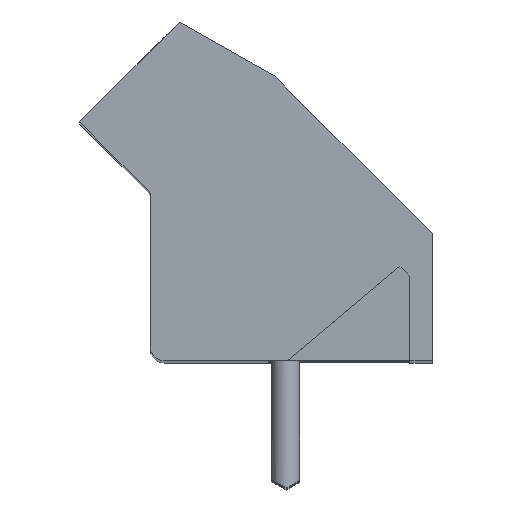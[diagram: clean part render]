
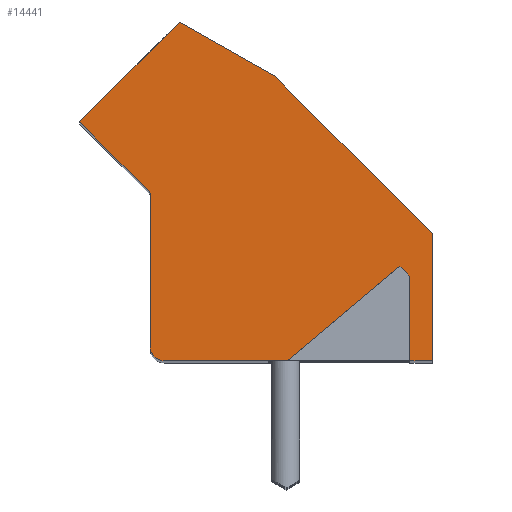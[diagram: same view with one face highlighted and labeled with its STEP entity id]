
A CAD part, top view. The second image highlights one B-rep face of the part: STEP entity #14441.
In plain terms, the highlighted planar face has unit normal (0, 0, 1).
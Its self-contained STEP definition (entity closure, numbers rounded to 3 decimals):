
#32 = CARTESIAN_POINT ( 'NONE',  ( -0.8, 0., 45. ) ) ;
#159 = ORIENTED_EDGE ( 'NONE', *, *, #15555, .T. ) ;
#381 = CARTESIAN_POINT ( 'NONE',  ( -10., 0., 45. ) ) ;
#671 = LINE ( 'NONE', #18252, #11833 ) ;
#687 = CARTESIAN_POINT ( 'NONE',  ( -0.8, 0., 45. ) ) ;
#891 = VERTEX_POINT ( 'NONE', #4366 ) ;
#959 = DIRECTION ( 'NONE',  ( 0., 1., 0. ) ) ;
#1278 = VECTOR ( 'NONE', #959, 1000. ) ;
#1343 = CARTESIAN_POINT ( 'NONE',  ( -9.5, 0., 45. ) ) ;
#1352 = CARTESIAN_POINT ( 'NONE',  ( -8.964, 12., 45. ) ) ;
#1724 = DIRECTION ( 'NONE',  ( -0.707, -0.707, 0. ) ) ;
#1729 = DIRECTION ( 'NONE',  ( -0.707, 0.707, 0. ) ) ;
#1768 = EDGE_CURVE ( 'NONE', #10085, #5401, #15203, .T. ) ;
#2080 = VECTOR ( 'NONE', #6146, 1000. ) ;
#2171 = VECTOR ( 'NONE', #4014, 1000. ) ;
#2333 = AXIS2_PLACEMENT_3D ( 'NONE', #18033, #15600, #15533 ) ;
#2446 = CARTESIAN_POINT ( 'NONE',  ( -9.5, 0.5, 45. ) ) ;
#3111 = CARTESIAN_POINT ( 'NONE',  ( 0., 0., 45. ) ) ;
#3120 = VECTOR ( 'NONE', #13971, 1000. ) ;
#3169 = VERTEX_POINT ( 'NONE', #3111 ) ;
#3478 = VECTOR ( 'NONE', #18381, 1000. ) ;
#3642 = ORIENTED_EDGE ( 'NONE', *, *, #10011, .T. ) ;
#4014 = DIRECTION ( 'NONE',  ( -0.766, -0.643, 0. ) ) ;
#4016 = CARTESIAN_POINT ( 'NONE',  ( -10., 0., 45. ) ) ;
#4070 = CARTESIAN_POINT ( 'NONE',  ( -7.993, -2.392, 45. ) ) ;
#4366 = CARTESIAN_POINT ( 'NONE',  ( -5.142, 0., 45. ) ) ;
#4594 = VERTEX_POINT ( 'NONE', #12006 ) ;
#4657 = CARTESIAN_POINT ( 'NONE',  ( -1.15, 3.35, 45. ) ) ;
#4749 = DIRECTION ( 'NONE',  ( 1., 0., 0. ) ) ;
#5137 = ORIENTED_EDGE ( 'NONE', *, *, #15507, .F. ) ;
#5150 = VERTEX_POINT ( 'NONE', #10930 ) ;
#5238 = EDGE_CURVE ( 'NONE', #3169, #6045, #7754, .T. ) ;
#5401 = VERTEX_POINT ( 'NONE', #1343 ) ;
#5757 = ORIENTED_EDGE ( 'NONE', *, *, #7857, .T. ) ;
#5827 = LINE ( 'NONE', #1352, #13080 ) ;
#5864 = DIRECTION ( 'NONE',  ( -0.87, 0.493, 0. ) ) ;
#6014 = LINE ( 'NONE', #13595, #2080 ) ;
#6045 = VERTEX_POINT ( 'NONE', #8770 ) ;
#6073 = DIRECTION ( 'NONE',  ( 0., -1., 0. ) ) ;
#6146 = DIRECTION ( 'NONE',  ( 0.707, -0.707, 0. ) ) ;
#6248 = ORIENTED_EDGE ( 'NONE', *, *, #10845, .T. ) ;
#6539 = CARTESIAN_POINT ( 'NONE',  ( -10.029, 5.994, 45. ) ) ;
#6805 = CARTESIAN_POINT ( 'NONE',  ( -0.8, 3., 45. ) ) ;
#6942 = EDGE_LOOP ( 'NONE', ( #15700, #10306, #12633, #14600, #15589, #8802, #5137, #19339, #3642, #13482, #159, #5757, #6248 ) ) ;
#7371 = EDGE_CURVE ( 'NONE', #11358, #891, #9820, .T. ) ;
#7396 = LINE ( 'NONE', #12213, #3478 ) ;
#7694 = VERTEX_POINT ( 'NONE', #6539 ) ;
#7754 = LINE ( 'NONE', #9844, #1278 ) ;
#7857 = EDGE_CURVE ( 'NONE', #4594, #9708, #5827, .T. ) ;
#8114 = VECTOR ( 'NONE', #13086, 1000. ) ;
#8316 = LINE ( 'NONE', #13698, #10943 ) ;
#8770 = CARTESIAN_POINT ( 'NONE',  ( 0., 4.5, 45. ) ) ;
#8802 = ORIENTED_EDGE ( 'NONE', *, *, #7371, .F. ) ;
#8921 = EDGE_CURVE ( 'NONE', #5401, #891, #18251, .T. ) ;
#9708 = VERTEX_POINT ( 'NONE', #12504 ) ;
#9820 = LINE ( 'NONE', #4070, #2171 ) ;
#9844 = CARTESIAN_POINT ( 'NONE',  ( 0., 0., 45. ) ) ;
#10011 = EDGE_CURVE ( 'NONE', #15418, #3169, #15658, .T. ) ;
#10084 = LINE ( 'NONE', #381, #18572 ) ;
#10085 = VERTEX_POINT ( 'NONE', #13262 ) ;
#10306 = ORIENTED_EDGE ( 'NONE', *, *, #17152, .T. ) ;
#10635 = CARTESIAN_POINT ( 'NONE',  ( -10., 0., 45. ) ) ;
#10845 = EDGE_CURVE ( 'NONE', #9708, #5150, #671, .T. ) ;
#10930 = CARTESIAN_POINT ( 'NONE',  ( -12.5, 8.464, 45. ) ) ;
#10943 = VECTOR ( 'NONE', #1729, 1000. ) ;
#11048 = VERTEX_POINT ( 'NONE', #6805 ) ;
#11358 = VERTEX_POINT ( 'NONE', #4657 ) ;
#11444 = DIRECTION ( 'NONE',  ( 0., 0., 1. ) ) ;
#11833 = VECTOR ( 'NONE', #1724, 1000. ) ;
#11869 = AXIS2_PLACEMENT_3D ( 'NONE', #2446, #11444, #18935 ) ;
#12006 = CARTESIAN_POINT ( 'NONE',  ( -5.589, 10.089, 45. ) ) ;
#12213 = CARTESIAN_POINT ( 'NONE',  ( -3.9, 6.1, 45. ) ) ;
#12504 = CARTESIAN_POINT ( 'NONE',  ( -8.964, 12., 45. ) ) ;
#12633 = ORIENTED_EDGE ( 'NONE', *, *, #19377, .T. ) ;
#13012 = VERTEX_POINT ( 'NONE', #19249 ) ;
#13080 = VECTOR ( 'NONE', #5864, 1000. ) ;
#13086 = DIRECTION ( 'NONE',  ( 1., 0., 0. ) ) ;
#13146 = EDGE_CURVE ( 'NONE', #15418, #11048, #15297, .T. ) ;
#13262 = CARTESIAN_POINT ( 'NONE',  ( -10., 0.5, 45. ) ) ;
#13482 = ORIENTED_EDGE ( 'NONE', *, *, #5238, .T. ) ;
#13595 = CARTESIAN_POINT ( 'NONE',  ( -12.5, 8.464, 45. ) ) ;
#13698 = CARTESIAN_POINT ( 'NONE',  ( 0., 4.5, 45. ) ) ;
#13702 = DIRECTION ( 'NONE',  ( 0., 0., 1. ) ) ;
#13971 = DIRECTION ( 'NONE',  ( 0., 1., 0. ) ) ;
#14441 = ADVANCED_FACE ( 'NONE', ( #15207 ), #16515, .T. ) ;
#14527 = CARTESIAN_POINT ( 'NONE',  ( -10., 0., 45. ) ) ;
#14600 = ORIENTED_EDGE ( 'NONE', *, *, #1768, .T. ) ;
#15203 = CIRCLE ( 'NONE', #11869, 0.5 ) ;
#15207 = FACE_OUTER_BOUND ( 'NONE', #6942, .T. ) ;
#15297 = LINE ( 'NONE', #687, #3120 ) ;
#15418 = VERTEX_POINT ( 'NONE', #32 ) ;
#15507 = EDGE_CURVE ( 'NONE', #11048, #11358, #7396, .T. ) ;
#15533 = DIRECTION ( 'NONE',  ( 1., 0., 0. ) ) ;
#15555 = EDGE_CURVE ( 'NONE', #6045, #4594, #8316, .T. ) ;
#15589 = ORIENTED_EDGE ( 'NONE', *, *, #8921, .T. ) ;
#15600 = DIRECTION ( 'NONE',  ( 0., 0., -1. ) ) ;
#15658 = LINE ( 'NONE', #14527, #17533 ) ;
#15700 = ORIENTED_EDGE ( 'NONE', *, *, #16534, .T. ) ;
#15982 = DIRECTION ( 'NONE',  ( 1., 0., 0. ) ) ;
#16515 = PLANE ( 'NONE',  #17569 ) ;
#16534 = EDGE_CURVE ( 'NONE', #5150, #7694, #6014, .T. ) ;
#17034 = CIRCLE ( 'NONE', #2333, 0.1 ) ;
#17152 = EDGE_CURVE ( 'NONE', #7694, #13012, #17034, .T. ) ;
#17533 = VECTOR ( 'NONE', #15982, 1000. ) ;
#17569 = AXIS2_PLACEMENT_3D ( 'NONE', #10635, #13702, #4749 ) ;
#18033 = CARTESIAN_POINT ( 'NONE',  ( -10.1, 5.923, 45. ) ) ;
#18251 = LINE ( 'NONE', #4016, #8114 ) ;
#18252 = CARTESIAN_POINT ( 'NONE',  ( -12.5, 8.464, 45. ) ) ;
#18381 = DIRECTION ( 'NONE',  ( -0.707, 0.707, 0. ) ) ;
#18572 = VECTOR ( 'NONE', #6073, 1000. ) ;
#18935 = DIRECTION ( 'NONE',  ( 1., 0., 0. ) ) ;
#19249 = CARTESIAN_POINT ( 'NONE',  ( -10., 5.923, 45. ) ) ;
#19339 = ORIENTED_EDGE ( 'NONE', *, *, #13146, .F. ) ;
#19377 = EDGE_CURVE ( 'NONE', #13012, #10085, #10084, .T. ) ;
